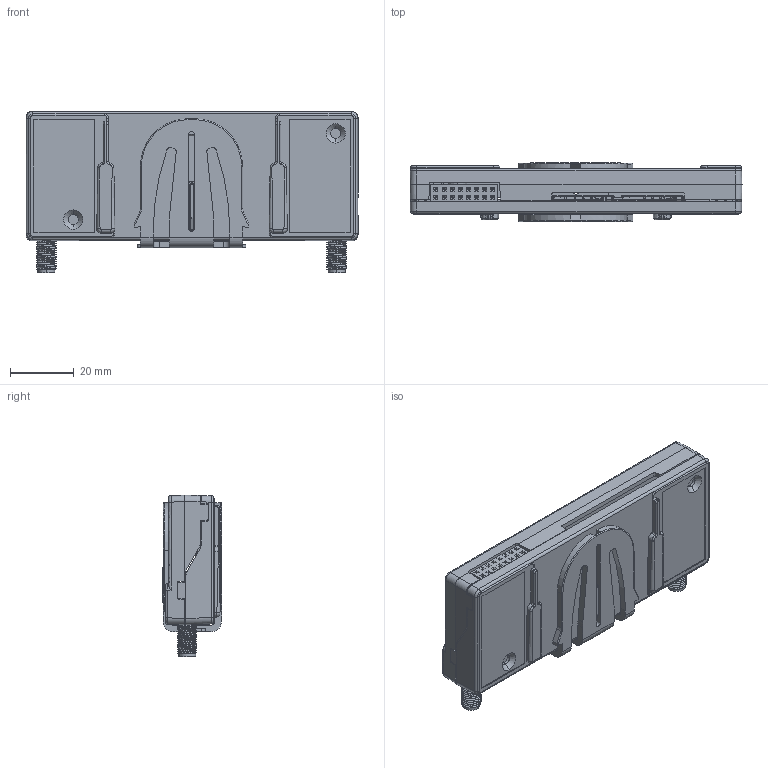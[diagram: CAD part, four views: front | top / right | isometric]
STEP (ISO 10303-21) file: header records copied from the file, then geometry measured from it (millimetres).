
FILE_DESCRIPTION (( 'STEP AP214' ), '1' );
FILE_NAME ('1002-CM Assem.STEP', '2024-04-17T06:50:19', ( 'Windows User' ), ( 'Digi International' ), 'SwSTEP 2.0', 'SolidWorks 2022', '' );
FILE_SCHEMA (( 'AUTOMOTIVE_DESIGN' ));
Length unit declared in the file: millimetre
Products named in the file (1): 1002-CM Assem
Bounding box: 104 x 18.5 x 50.6 mm (x, y, z)
Surface area: 46932.9 mm2 (no closed solid volume)
Topology: 0 solids, 67 shells, 3778 faces, 9922 edges, 6269 vertices
Faces by surface type: plane 2147, cylinder 1116, bspline 362, cone 97, torus 30, sphere 26
Entity records: 184449 total; most frequent: CARTESIAN_POINT 52608, ORIENTED_EDGE 19776, DIRECTION 17006, EDGE_CURVE 9895, LINE 6784, VECTOR 6784, VERTEX_POINT 6269, AXIS2_PLACEMENT_3D 5111
